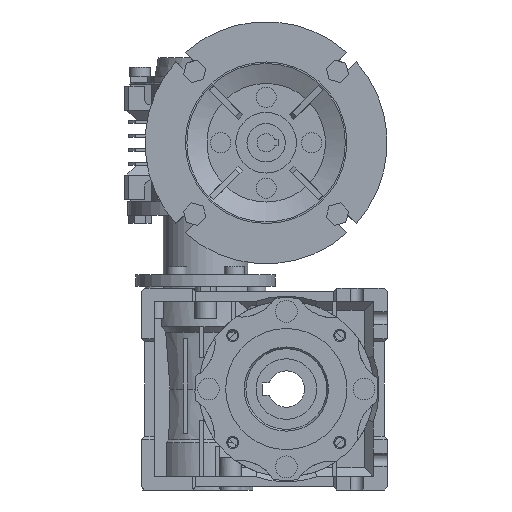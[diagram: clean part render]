
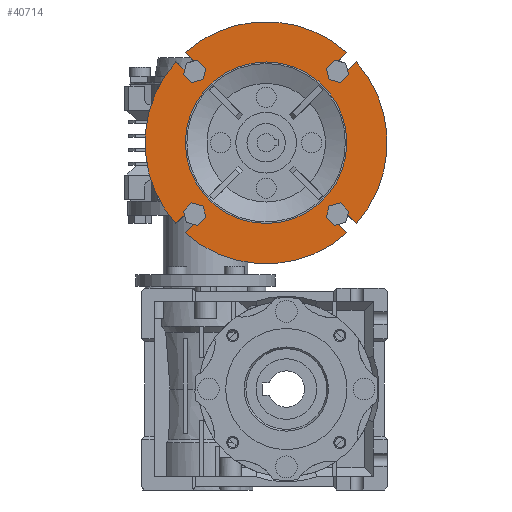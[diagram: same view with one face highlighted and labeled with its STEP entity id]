
A CAD part, left-side view. The second image highlights one B-rep face of the part: STEP entity #40714.
In plain terms, the highlighted planar face has unit normal (-1, 0, 0) as drawn and (1, 0, 0) by its records, which use the part's own axes.
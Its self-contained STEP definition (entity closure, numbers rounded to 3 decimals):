
#1558=CIRCLE('',#43355,60.);
#1561=CIRCLE('',#43359,60.);
#1563=CIRCLE('',#43362,60.);
#1576=CIRCLE('',#43388,60.);
#1577=CIRCLE('',#43390,40.);
#1578=CIRCLE('',#43391,3.25);
#1579=CIRCLE('',#43392,3.25);
#1580=CIRCLE('',#43393,3.25);
#1581=CIRCLE('',#43394,3.25);
#9467=ORIENTED_EDGE('',*,*,#14015,.F.);
#9468=ORIENTED_EDGE('',*,*,#14016,.F.);
#9469=ORIENTED_EDGE('',*,*,#14017,.T.);
#9470=ORIENTED_EDGE('',*,*,#13920,.T.);
#9471=ORIENTED_EDGE('',*,*,#14018,.T.);
#9472=ORIENTED_EDGE('',*,*,#14019,.F.);
#9473=ORIENTED_EDGE('',*,*,#14020,.T.);
#9474=ORIENTED_EDGE('',*,*,#13930,.T.);
#9475=ORIENTED_EDGE('',*,*,#14021,.T.);
#9476=ORIENTED_EDGE('',*,*,#14022,.F.);
#9477=ORIENTED_EDGE('',*,*,#14023,.T.);
#9478=ORIENTED_EDGE('',*,*,#13926,.T.);
#9479=ORIENTED_EDGE('',*,*,#14024,.T.);
#9480=ORIENTED_EDGE('',*,*,#14025,.F.);
#9481=ORIENTED_EDGE('',*,*,#14026,.T.);
#9482=ORIENTED_EDGE('',*,*,#14013,.T.);
#9483=ORIENTED_EDGE('',*,*,#14027,.T.);
#13920=EDGE_CURVE('',#16850,#16851,#1558,.T.);
#13926=EDGE_CURVE('',#16857,#16856,#1561,.T.);
#13930=EDGE_CURVE('',#16861,#16860,#1563,.T.);
#14013=EDGE_CURVE('',#16934,#16933,#1576,.T.);
#14015=EDGE_CURVE('',#16935,#16935,#1577,.T.);
#14016=EDGE_CURVE('',#16936,#16937,#1578,.T.);
#14017=EDGE_CURVE('',#16936,#16850,#19956,.T.);
#14018=EDGE_CURVE('',#16851,#16938,#19957,.T.);
#14019=EDGE_CURVE('',#16939,#16938,#1579,.T.);
#14020=EDGE_CURVE('',#16939,#16861,#19958,.T.);
#14021=EDGE_CURVE('',#16860,#16940,#19959,.T.);
#14022=EDGE_CURVE('',#16941,#16940,#1580,.T.);
#14023=EDGE_CURVE('',#16941,#16857,#19960,.T.);
#14024=EDGE_CURVE('',#16856,#16942,#19961,.T.);
#14025=EDGE_CURVE('',#16943,#16942,#1581,.T.);
#14026=EDGE_CURVE('',#16943,#16934,#19962,.T.);
#14027=EDGE_CURVE('',#16933,#16937,#19963,.T.);
#16850=VERTEX_POINT('',#60361);
#16851=VERTEX_POINT('',#60362);
#16856=VERTEX_POINT('',#60373);
#16857=VERTEX_POINT('',#60375);
#16860=VERTEX_POINT('',#60382);
#16861=VERTEX_POINT('',#60384);
#16933=VERTEX_POINT('',#60581);
#16934=VERTEX_POINT('',#60583);
#16935=VERTEX_POINT('',#60587);
#16936=VERTEX_POINT('',#60589);
#16937=VERTEX_POINT('',#60590);
#16938=VERTEX_POINT('',#60593);
#16939=VERTEX_POINT('',#60595);
#16940=VERTEX_POINT('',#60598);
#16941=VERTEX_POINT('',#60600);
#16942=VERTEX_POINT('',#60603);
#16943=VERTEX_POINT('',#60605);
#19956=LINE('',#60591,#23020);
#19957=LINE('',#60592,#23021);
#19958=LINE('',#60596,#23022);
#19959=LINE('',#60597,#23023);
#19960=LINE('',#60601,#23024);
#19961=LINE('',#60602,#23025);
#19962=LINE('',#60606,#23026);
#19963=LINE('',#60607,#23027);
#23020=VECTOR('',#51286,1000.);
#23021=VECTOR('',#51287,1000.);
#23022=VECTOR('',#51290,1000.);
#23023=VECTOR('',#51291,1000.);
#23024=VECTOR('',#51294,1000.);
#23025=VECTOR('',#51295,1000.);
#23026=VECTOR('',#51298,1000.);
#23027=VECTOR('',#51299,1000.);
#24912=EDGE_LOOP('',(#9467));
#24913=EDGE_LOOP('',(#9468,#9469,#9470,#9471,#9472,#9473,#9474,#9475,#9476,
#9477,#9478,#9479,#9480,#9481,#9482,#9483));
#26776=FACE_BOUND('',#24912,.T.);
#26777=FACE_BOUND('',#24913,.T.);
#28028=PLANE('',#43389);
#40714=ADVANCED_FACE('',(#26776,#26777),#28028,.F.);
#43355=AXIS2_PLACEMENT_3D('',#60360,#51154,#51155);
#43359=AXIS2_PLACEMENT_3D('',#60374,#51165,#51166);
#43362=AXIS2_PLACEMENT_3D('',#60383,#51173,#51174);
#43388=AXIS2_PLACEMENT_3D('',#60582,#51277,#51278);
#43389=AXIS2_PLACEMENT_3D('',#60585,#51280,#51281);
#43390=AXIS2_PLACEMENT_3D('',#60586,#51282,#51283);
#43391=AXIS2_PLACEMENT_3D('',#60588,#51284,#51285);
#43392=AXIS2_PLACEMENT_3D('',#60594,#51288,#51289);
#43393=AXIS2_PLACEMENT_3D('',#60599,#51292,#51293);
#43394=AXIS2_PLACEMENT_3D('',#60604,#51296,#51297);
#51154=DIRECTION('',(1.,0.,0.));
#51155=DIRECTION('',(0.,0.,-1.));
#51165=DIRECTION('',(1.,0.,0.));
#51166=DIRECTION('',(0.,0.,-1.));
#51173=DIRECTION('',(1.,0.,0.));
#51174=DIRECTION('',(0.,0.,-1.));
#51277=DIRECTION('',(1.,0.,0.));
#51278=DIRECTION('',(0.,0.,-1.));
#51280=DIRECTION('',(-1.,0.,0.));
#51281=DIRECTION('',(0.,0.,1.));
#51282=DIRECTION('',(1.,0.,0.));
#51283=DIRECTION('',(0.,0.,-1.));
#51284=DIRECTION('',(1.,0.,0.));
#51285=DIRECTION('',(0.,0.,-1.));
#51286=DIRECTION('',(0.,0.707,0.707));
#51287=DIRECTION('',(0.,0.707,-0.707));
#51288=DIRECTION('',(1.,0.,0.));
#51289=DIRECTION('',(0.,0.,-1.));
#51290=DIRECTION('',(0.,-0.707,0.707));
#51291=DIRECTION('',(0.,0.707,0.707));
#51292=DIRECTION('',(1.,0.,0.));
#51293=DIRECTION('',(0.,0.,-1.));
#51294=DIRECTION('',(0.,-0.707,-0.707));
#51295=DIRECTION('',(0.,-0.707,0.707));
#51296=DIRECTION('',(1.,0.,0.));
#51297=DIRECTION('',(0.,0.,-1.));
#51298=DIRECTION('',(0.,0.707,-0.707));
#51299=DIRECTION('',(0.,-0.707,-0.707));
#60360=CARTESIAN_POINT('',(20.,0.,0.));
#60361=CARTESIAN_POINT('',(20.,40.066,44.662));
#60362=CARTESIAN_POINT('',(20.,-40.066,44.662));
#60373=CARTESIAN_POINT('',(20.,40.066,-44.662));
#60374=CARTESIAN_POINT('',(20.,0.,0.));
#60375=CARTESIAN_POINT('',(20.,-40.066,-44.662));
#60382=CARTESIAN_POINT('',(20.,-44.662,-40.066));
#60383=CARTESIAN_POINT('',(20.,0.,0.));
#60384=CARTESIAN_POINT('',(20.,-44.662,40.066));
#60581=CARTESIAN_POINT('',(20.,44.662,40.066));
#60582=CARTESIAN_POINT('',(20.,0.,0.));
#60583=CARTESIAN_POINT('',(20.,44.662,-40.066));
#60585=CARTESIAN_POINT('',(20.,60.,0.));
#60586=CARTESIAN_POINT('',(20.,0.,0.));
#60587=CARTESIAN_POINT('',(20.,0.,-40.));
#60588=CARTESIAN_POINT('',(20.,35.355,35.355));
#60589=CARTESIAN_POINT('',(20.,33.057,37.653));
#60590=CARTESIAN_POINT('',(20.,37.653,33.057));
#60591=CARTESIAN_POINT('',(20.,33.057,37.653));
#60592=CARTESIAN_POINT('',(20.,-40.066,44.662));
#60593=CARTESIAN_POINT('',(20.,-33.057,37.653));
#60594=CARTESIAN_POINT('',(20.,-35.355,35.355));
#60595=CARTESIAN_POINT('',(20.,-37.653,33.057));
#60596=CARTESIAN_POINT('',(20.,-37.653,33.057));
#60597=CARTESIAN_POINT('',(20.,-44.662,-40.066));
#60598=CARTESIAN_POINT('',(20.,-37.653,-33.057));
#60599=CARTESIAN_POINT('',(20.,-35.355,-35.355));
#60600=CARTESIAN_POINT('',(20.,-33.057,-37.653));
#60601=CARTESIAN_POINT('',(20.,-33.057,-37.653));
#60602=CARTESIAN_POINT('',(20.,40.066,-44.662));
#60603=CARTESIAN_POINT('',(20.,33.057,-37.653));
#60604=CARTESIAN_POINT('',(20.,35.355,-35.355));
#60605=CARTESIAN_POINT('',(20.,37.653,-33.057));
#60606=CARTESIAN_POINT('',(20.,37.653,-33.057));
#60607=CARTESIAN_POINT('',(20.,44.662,40.066));
